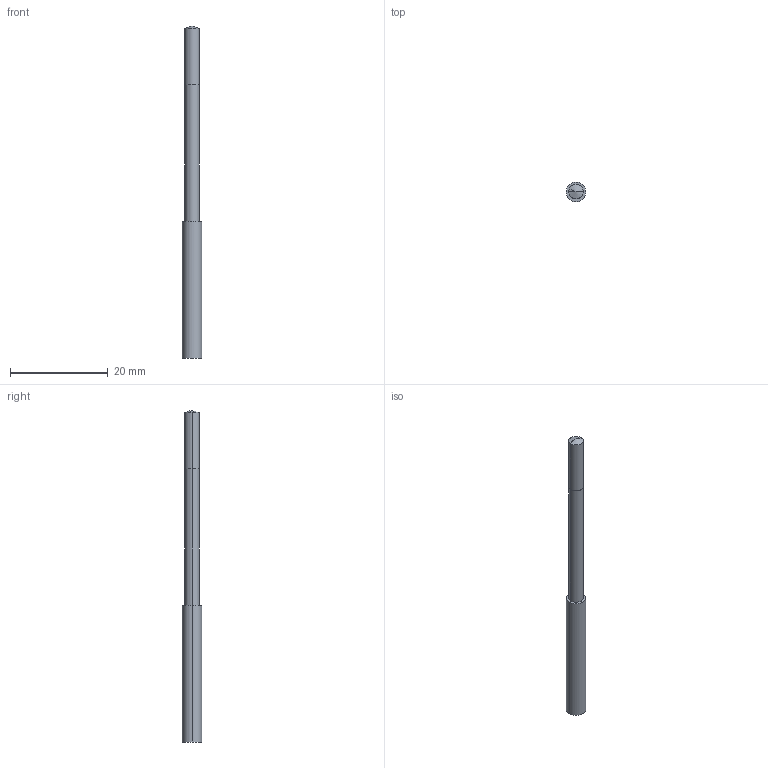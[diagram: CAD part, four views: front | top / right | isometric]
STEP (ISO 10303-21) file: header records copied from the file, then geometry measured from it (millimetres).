
FILE_DESCRIPTION(('STEP AP214'),'1');
FILE_NAME('cctmp_12DA1A7F-6775-4082-8972-A736D28B8613_2020_10_01_10_12_19_0856..stp','2020-10-01T08:12:19',('Meusburger Georg GmbH & Co KG'),('CADClick - www.CADClick.com'),'Spatial InterOp 3D',' ','unknown authorization');
FILE_SCHEMA(('AUTOMOTIVE_DESIGN { 1 0 10303 214 1 1 1 1 }'));
Length unit declared in the file: millimetre
Products named in the file (1): WZR 102522_2.99
Bounding box: 4 x 4 x 68 mm (x, y, z)
Volume: 618.7 mm3; surface area: 741.3 mm2
Topology: 1 solids, 1 shells, 11 faces, 22 edges, 13 vertices
Faces by surface type: cylinder 6, plane 3, cone 2
Entity records: 390 total; most frequent: DIRECTION 56, CARTESIAN_POINT 45, ORIENTED_EDGE 40, AXIS2_PLACEMENT_3D 24, EDGE_CURVE 20, EDGE_LOOP 13, VERTEX_POINT 13, STYLED_ITEM 12
